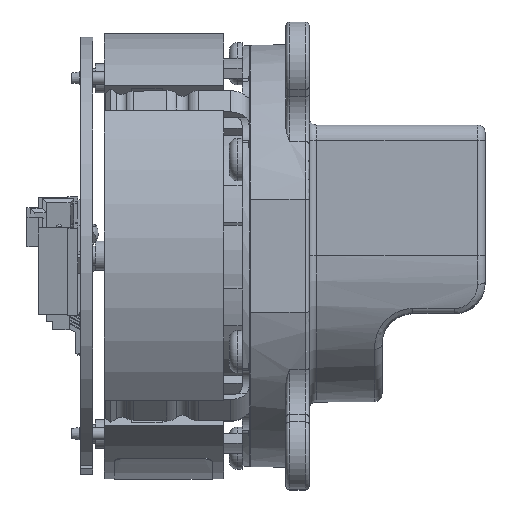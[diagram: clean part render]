
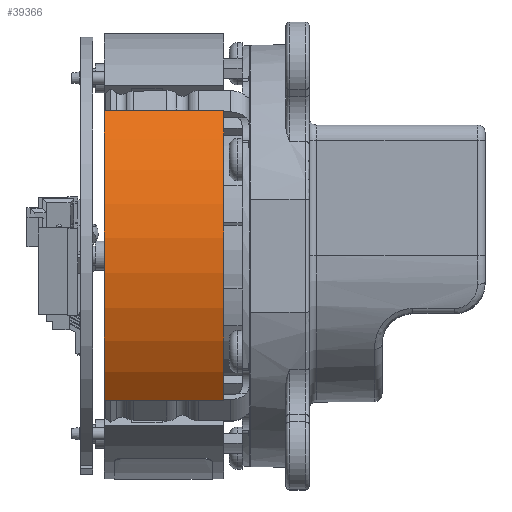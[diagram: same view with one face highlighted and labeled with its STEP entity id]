
A CAD part, top view. The second image highlights one B-rep face of the part: STEP entity #39366.
In plain terms, the highlighted cylindrical face has radius 29.05 mm (diameter 58.1 mm), a partial arc.
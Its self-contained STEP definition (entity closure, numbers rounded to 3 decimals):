
#2631 = DIRECTION ( 'NONE',  ( 0., 0., 1. ) ) ;
#2675 = ORIENTED_EDGE ( 'NONE', *, *, #22480, .T. ) ;
#2955 = AXIS2_PLACEMENT_3D ( 'NONE', #42565, #2631, #16997 ) ;
#2957 = LINE ( 'NONE', #34834, #8840 ) ;
#3368 = CARTESIAN_POINT ( 'NONE',  ( 18.851, 22.103, -15.5 ) ) ;
#5259 = EDGE_LOOP ( 'NONE', ( #26169, #2675, #38870, #7946 ) ) ;
#5688 = DIRECTION ( 'NONE',  ( 1., 0., 0. ) ) ;
#6328 = CARTESIAN_POINT ( 'NONE',  ( 0., 0., 0. ) ) ;
#7946 = ORIENTED_EDGE ( 'NONE', *, *, #32068, .F. ) ;
#8840 = VECTOR ( 'NONE', #13092, 1000. ) ;
#10155 = CYLINDRICAL_SURFACE ( 'NONE', #17891, 29.05 ) ;
#10688 = LINE ( 'NONE', #3368, #38272 ) ;
#12761 = FACE_OUTER_BOUND ( 'NONE', #5259, .T. ) ;
#13092 = DIRECTION ( 'NONE',  ( 0., 0., -1. ) ) ;
#14410 = EDGE_CURVE ( 'NONE', #20955, #46242, #46042, .T. ) ;
#16997 = DIRECTION ( 'NONE',  ( 1., 0., 0. ) ) ;
#17891 = AXIS2_PLACEMENT_3D ( 'NONE', #31674, #42331, #5688 ) ;
#20213 = VERTEX_POINT ( 'NONE', #34264 ) ;
#20955 = VERTEX_POINT ( 'NONE', #43920 ) ;
#22480 = EDGE_CURVE ( 'NONE', #20955, #36769, #10688, .T. ) ;
#25013 = DIRECTION ( 'NONE',  ( 0., 0., 1. ) ) ;
#26169 = ORIENTED_EDGE ( 'NONE', *, *, #14410, .F. ) ;
#27013 = CARTESIAN_POINT ( 'NONE',  ( -18.851, 22.103, 0. ) ) ;
#31630 = AXIS2_PLACEMENT_3D ( 'NONE', #6328, #25013, #43213 ) ;
#31674 = CARTESIAN_POINT ( 'NONE',  ( 0., 0., -15.5 ) ) ;
#32068 = EDGE_CURVE ( 'NONE', #46242, #20213, #2957, .T. ) ;
#32423 = DIRECTION ( 'NONE',  ( 0., 0., -1. ) ) ;
#33868 = CIRCLE ( 'NONE', #2955, 29.05 ) ;
#34264 = CARTESIAN_POINT ( 'NONE',  ( -18.851, 22.103, -15.5 ) ) ;
#34834 = CARTESIAN_POINT ( 'NONE',  ( -18.851, 22.103, -15.5 ) ) ;
#36769 = VERTEX_POINT ( 'NONE', #43378 ) ;
#38272 = VECTOR ( 'NONE', #32423, 1000. ) ;
#38870 = ORIENTED_EDGE ( 'NONE', *, *, #40409, .T. ) ;
#39366 = ADVANCED_FACE ( 'NONE', ( #12761 ), #10155, .T. ) ;
#40409 = EDGE_CURVE ( 'NONE', #36769, #20213, #33868, .T. ) ;
#42331 = DIRECTION ( 'NONE',  ( 0., 0., 1. ) ) ;
#42565 = CARTESIAN_POINT ( 'NONE',  ( 0., 0., -15.5 ) ) ;
#43213 = DIRECTION ( 'NONE',  ( 1., 0., 0. ) ) ;
#43378 = CARTESIAN_POINT ( 'NONE',  ( 18.851, 22.103, -15.5 ) ) ;
#43920 = CARTESIAN_POINT ( 'NONE',  ( 18.851, 22.103, 0. ) ) ;
#46042 = CIRCLE ( 'NONE', #31630, 29.05 ) ;
#46242 = VERTEX_POINT ( 'NONE', #27013 ) ;
